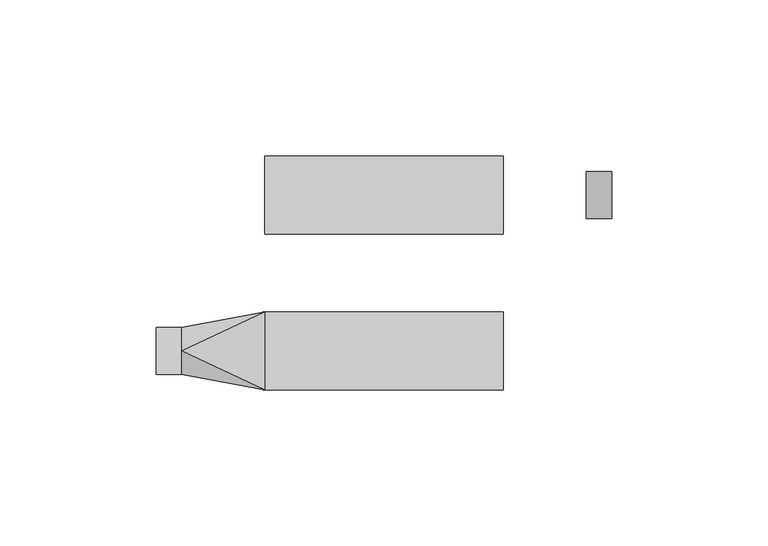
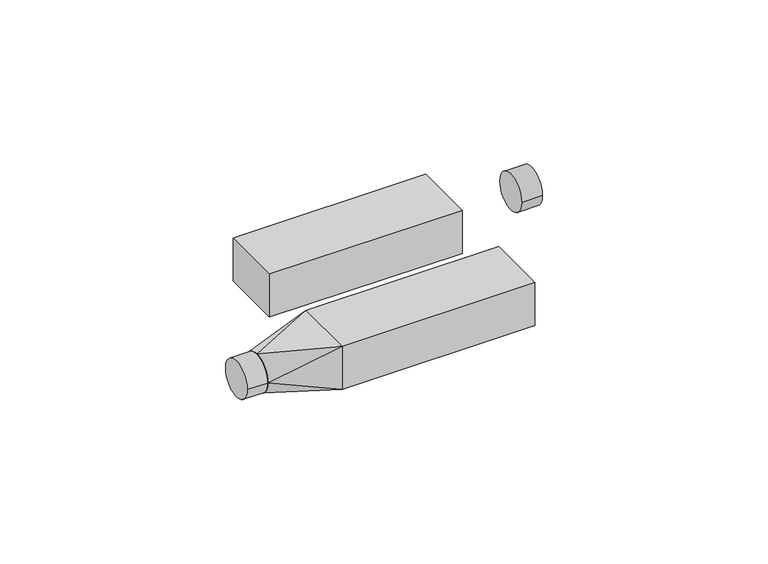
"""IFC4 building model written with IfcOpenShell, lengths in millimetres: pipe fitting geometry, NLRS_50_PIF_UN_Geberit Mapress kruising-T-stuk met isolatiebox_PRO_103301 : DN10-20 / d12-22 - OD."""

from ifc_helpers import new_model, si_unit, point, frame, frame_2d, origin, origin_2d, place, context, project, spatial, polyline, circle_curve, trimmed, segment, composite_curve, outline, extrude, source, transform, mapped, element, save
from ifc_brep_helpers import plane_surface, spline_surface, advanced_brep


def pipe_fitting_caa33bd4(model_context):
    return source(origin(), model_context, "Body", "SolidModel", [
        advanced_brep(
        [(-89.75, -57.4999938, 0.0096644), (-89.75, -49.9543377, 7.499861), (-89.75, -42.5000036, 0.0073889), (-89.75, -50.0011377, -7.4999999), (-63.25, -62.5, 9.0), (-63.25, -62.5, -9.0), (-63.25, -37.5, -9.0), (-63.25, -37.5, 9.0)],
        [
            (0, 1, circle_curve(frame((-89.75, -50.0, 0.0), z_axis=(-1.0, 0.0, 0.0), x_axis=(0.0, 1.0, 0.0)), 7.5)),
            (1, 2, circle_curve(frame((-89.75, -50.0, 0.0), z_axis=(-1.0, 0.0, 0.0), x_axis=(0.0, 1.0, 0.0)), 7.5)),
            (2, 3, circle_curve(frame((-89.75, -50.0, 0.0), z_axis=(-1.0, 0.0, 0.0), x_axis=(0.0, 1.0, 0.0)), 7.5)),
            (3, 0, circle_curve(frame((-89.75, -50.0, 0.0), z_axis=(-1.0, 0.0, 0.0), x_axis=(0.0, 1.0, 0.0)), 7.5)),
            (4, 5),
            (5, 6),
            (6, 7),
            (7, 4),
            (4, 0),
            (0, 5),
            (6, 2),
            (2, 7),
            (4, 1),
            (7, 1),
            (6, 3),
            (5, 3),
        ],
        [
            plane_surface(frame((-89.75, -49.9888682, 0.0042286), z_axis=(-1.0, 0.0, 0.0), x_axis=(0.0, -0.9999999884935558, 0.00015169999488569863))),
            plane_surface(frame((-63.25, -50.0, 0.0), z_axis=(1.0, 0.0, 0.0), x_axis=(0.0, -0.9999999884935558, 0.00015169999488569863))),
            plane_surface(frame((-63.25, -62.5, 0.0), z_axis=(-0.18540808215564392, -0.9826616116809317, 0.0), x_axis=(0.0, 0.0, 1.0))),
            plane_surface(frame((-63.25, -37.5, 0.0), z_axis=(-0.18540798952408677, 0.9826616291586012, 0.0), x_axis=(0.0, 0.0, -1.0))),
            spline_surface(2, 1, [[(-63.25, -62.5, 9.0), (-89.75, -57.4999938, 0.0096644)], [(-63.25, -62.5, 9.0), (-89.75, -57.49597708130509, 3.1268124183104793)], [(-63.25, -62.5, 9.0), (-89.75, -55.283703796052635, 5.322825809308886)], [(-63.25, -62.5, 9.0), (-89.75, -53.07143052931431, 7.518839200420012)], [(-63.25, -62.5, 9.0), (-89.75, -49.9543377, 7.499861)]], [3, 2, 3], [2, 2], [0.0, 1.0, 2.0], [0.0, 1.0], weights=[[1.0, 1.0], [0.9234196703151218, 0.9234196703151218], [1.0, 1.0], [0.9234196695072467, 0.9234196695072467], [1.0, 1.0]]),
            plane_surface(frame((-63.25, -50.0, 9.0), z_axis=(-0.05651853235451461, 0.0, 0.9984015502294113), x_axis=(0.0, 1.0, 0.0))),
            spline_surface(2, 1, [[(-63.25, -37.5, 9.0), (-89.75, -49.9543377, 7.499861)], [(-63.25, -37.5, 9.0), (-89.75, -42.50734045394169, 7.4545205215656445)], [(-63.25, -37.5, 9.0), (-89.75, -42.5000036, 0.0073889)]], [3, 3], [2, 2], [0.0, 1.0], [0.0, 1.0], weights=[[1.0, 1.0], [0.7096032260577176, 0.7096032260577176], [1.0, 1.0]]),
            spline_surface(2, 1, [[(-63.25, -37.5, -9.0), (-89.75, -42.5000036, 0.0073889)], [(-63.25, -37.5, -9.0), (-89.75, -42.49694055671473, -3.101709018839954)], [(-63.25, -37.5, -9.0), (-89.75, -44.694489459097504, -5.301090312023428)], [(-63.25, -37.5, -9.0), (-89.75, -46.89203831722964, -7.500471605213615)], [(-63.25, -37.5, -9.0), (-89.75, -50.0011377, -7.4999999)]], [3, 2, 3], [2, 2], [0.0, 1.0, 2.0], [0.0, 1.0], weights=[[1.0, 1.0], [0.9237707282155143, 0.9237707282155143], [1.0, 1.0], [0.9237707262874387, 0.9237707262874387], [1.0, 1.0]]),
            plane_surface(frame((-63.25, -50.0, -9.0), z_axis=(-0.05651331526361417, 0.0, -0.9984018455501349), x_axis=(0.0, -1.0, 0.0))),
            spline_surface(2, 1, [[(-63.25, -62.5, -9.0), (-89.75, -50.0011377, -7.4999999)], [(-63.25, -62.5, -9.0), (-89.75, -53.11023707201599, -7.499528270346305)], [(-63.25, -62.5, -9.0), (-89.75, -55.307118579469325, -5.299480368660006)], [(-63.25, -62.5, -9.0), (-89.75, -57.50400008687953, -3.099432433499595)], [(-63.25, -62.5, -9.0), (-89.75, -57.4999938, 0.0096644)]], [3, 2, 3], [2, 2], [0.0, 1.0, 2.0], [0.0, 1.0], weights=[[1.0, 1.0], [0.9237707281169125, 0.9237707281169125], [1.0, 1.0], [0.9237707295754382, 0.9237707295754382], [1.0, 1.0]]),
        ],
        [
            (0, [[1, 2, 3, 4]]),
            (1, [[5, 6, 7, 8]]),
            (2, [[-5, 9, 10]]),
            (3, [[-7, 11, 12]]),
            (4, [[-1, -9, 13]]),
            (5, [[-8, 14, -13]]),
            (6, [[-2, -14, -12]]),
            (7, [[-3, -11, 15]]),
            (8, [[-6, 16, -15]]),
            (9, [[-4, -16, -10]]),
        ],
    ),
        extrude(outline(composite_curve([segment(trimmed(circle_curve(frame_2d((-50.0, 0.0)), 7.5), [point((-42.5, 0.0))], [point((-57.5, 0.0))], False, "CARTESIAN"), True, "CONTINUOUS"), segment(trimmed(circle_curve(frame_2d((-50.0, 0.0)), 7.5), [point((-57.5, 0.0))], [point((-42.5, 0.0))], False, "CARTESIAN"), True, "CONTINUOUS")], self_intersect=False)), frame((-98.0, 0.0, 0.0), z_axis=(1.0, 0.0, 0.0), x_axis=(0.0, 1.0, 0.0)), (0.0, 0.0, 1.0), 8.25),
        extrude(outline(polyline([(13.25, -37.5), (13.25, -62.5), (-63.25, -62.5), (-63.25, -37.5), (13.25, -37.5)])), frame((0.0, 0.0, -9.0), z_axis=(0.0, 0.0, 1.0), x_axis=(1.0, 0.0, 0.0)), (0.0, 0.0, 1.0), 18.0),
        extrude(outline(composite_curve([segment(trimmed(circle_curve(origin_2d(), 7.5), [point((-7.5, 0.0))], [point((7.5, 0.0))], False, "CARTESIAN"), True, "CONTINUOUS"), segment(trimmed(circle_curve(origin_2d(), 7.5), [point((7.5, 0.0))], [point((-7.5, 0.0))], False, "CARTESIAN"), True, "CONTINUOUS")], self_intersect=False)), frame((39.75, 0.0, 0.0), z_axis=(1.0, 0.0, 0.0), x_axis=(0.0, 1.0, 0.0)), (0.0, 0.0, 1.0), 8.25),
        extrude(outline(polyline([(13.25, 12.5), (13.25, -12.5), (-63.25, -12.5), (-63.25, 12.5), (13.25, 12.5)])), frame((0.0, 0.0, -9.0), z_axis=(0.0, 0.0, 1.0), x_axis=(1.0, 0.0, 0.0)), (0.0, 0.0, 1.0), 18.0),
    ])


if __name__ == "__main__":
    model = new_model("IFC4")
    model_context = context("Model", 3, world=origin())
    ifc_project = project(units=[si_unit("LENGTHUNIT", "METRE", prefix="MILLI")], contexts=[model_context])
    site = spatial("IfcSite", under=ifc_project)
    building = spatial("IfcBuilding", under=site)
    placement = place(None, origin())
    pipe_fitting_shape = pipe_fitting_caa33bd4(model_context)
    element("IfcPipeFitting", 1, ObjectType="NLRS_50_PIF_UN_Geberit Mapress kruising-T-stuk met isolatiebox_PRO_103301 : DN10-20 / d12-22 - OD", at=placement, inside=building, context=model_context, shape_type="MappedRepresentation", body=[
        mapped(pipe_fitting_shape, transform((0.0, 0.0, 0.0), x_axis=(1.0, 0.0, 0.0), y_axis=(0.0, 1.0, 0.0), z_axis=(0.0, 0.0, 1.0))),
    ])
    save(model, "model.ifc")
